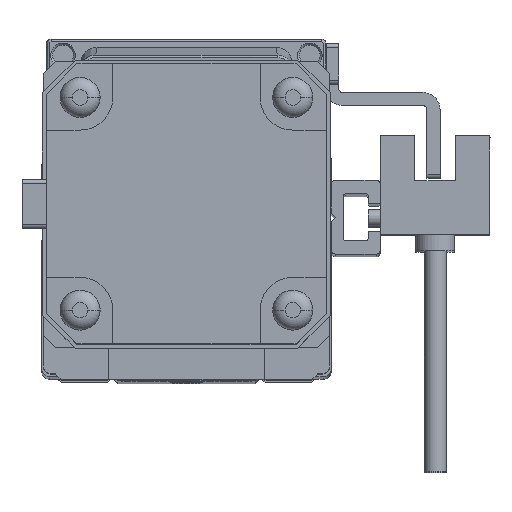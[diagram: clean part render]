
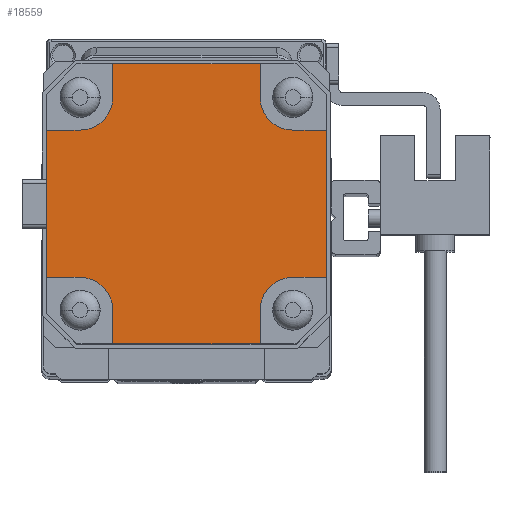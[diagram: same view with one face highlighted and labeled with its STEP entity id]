
A CAD part, top view. The second image highlights one B-rep face of the part: STEP entity #18559.
In plain terms, the highlighted planar face has unit normal (0, 0, 1) as drawn and (0, -1, 0) by its records, which use the part's own axes.
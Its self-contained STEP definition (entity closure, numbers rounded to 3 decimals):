
#118 = AXIS2_PLACEMENT_3D ( 'NONE', #2127, #2145, #2133 ) ;
#2126 = PLANE ( 'NONE',  #118 ) ;
#2127 = CARTESIAN_POINT ( 'NONE',  ( 0., -36., 0. ) ) ;
#2133 = DIRECTION ( 'NONE',  ( 0., 0., 1. ) ) ;
#2145 = DIRECTION ( 'NONE',  ( 0., 1., 0. ) ) ;
#3218 = FACE_OUTER_BOUND ( 'NONE', #27619, .T. ) ;
#12025 = AXIS2_PLACEMENT_3D ( 'NONE', #45167, #45169, #45135 ) ;
#12035 = AXIS2_PLACEMENT_3D ( 'NONE', #45077, #45086, #45080 ) ;
#12049 = AXIS2_PLACEMENT_3D ( 'NONE', #43835, #43806, #43769 ) ;
#12067 = AXIS2_PLACEMENT_3D ( 'NONE', #45102, #45129, #45100 ) ;
#18559 = ADVANCED_FACE ( 'NONE', ( #3218 ), #2126, .F. ) ;
#27619 = EDGE_LOOP ( 'NONE', ( #38317, #38320, #38321, #38296, #38314, #38329, #38282, #38287, #38318, #38288, #38290, #38284, #38338, #38293, #38331, #38300 ) ) ;
#32229 = VECTOR ( 'NONE', #45084, 1000. ) ;
#32243 = LINE ( 'NONE', #45085, #32337 ) ;
#32249 = VECTOR ( 'NONE', #45055, 1000. ) ;
#32255 = LINE ( 'NONE', #45030, #32307 ) ;
#32275 = CIRCLE ( 'NONE', #12067, 4. ) ;
#32283 = LINE ( 'NONE', #45079, #32229 ) ;
#32301 = LINE ( 'NONE', #45091, #32303 ) ;
#32303 = VECTOR ( 'NONE', #45103, 1000. ) ;
#32307 = VECTOR ( 'NONE', #45041, 1000. ) ;
#32313 = VECTOR ( 'NONE', #45075, 1000. ) ;
#32315 = LINE ( 'NONE', #45053, #32249 ) ;
#32337 = VECTOR ( 'NONE', #45060, 1000. ) ;
#32341 = LINE ( 'NONE', #45051, #32313 ) ;
#32347 = CIRCLE ( 'NONE', #12035, 4. ) ;
#32375 = VECTOR ( 'NONE', #45157, 1000. ) ;
#32379 = LINE ( 'NONE', #43761, #32403 ) ;
#32383 = LINE ( 'NONE', #45170, #32375 ) ;
#32391 = LINE ( 'NONE', #45161, #32469 ) ;
#32399 = VECTOR ( 'NONE', #45138, 1000. ) ;
#32403 = VECTOR ( 'NONE', #43706, 1000. ) ;
#32417 = LINE ( 'NONE', #43755, #32421 ) ;
#32421 = VECTOR ( 'NONE', #43702, 1000. ) ;
#32429 = LINE ( 'NONE', #43756, #32431 ) ;
#32431 = VECTOR ( 'NONE', #43715, 1000. ) ;
#32445 = CIRCLE ( 'NONE', #12025, 4. ) ;
#32459 = LINE ( 'NONE', #45142, #32399 ) ;
#32469 = VECTOR ( 'NONE', #45139, 1000. ) ;
#32611 = CIRCLE ( 'NONE', #12049, 4. ) ;
#38282 = ORIENTED_EDGE ( 'NONE', *, *, #43395, .T. ) ;
#38284 = ORIENTED_EDGE ( 'NONE', *, *, #43444, .T. ) ;
#38287 = ORIENTED_EDGE ( 'NONE', *, *, #43423, .F. ) ;
#38288 = ORIENTED_EDGE ( 'NONE', *, *, #43437, .F. ) ;
#38290 = ORIENTED_EDGE ( 'NONE', *, *, #43407, .T. ) ;
#38293 = ORIENTED_EDGE ( 'NONE', *, *, #43445, .F. ) ;
#38296 = ORIENTED_EDGE ( 'NONE', *, *, #43392, .F. ) ;
#38300 = ORIENTED_EDGE ( 'NONE', *, *, #43409, .T. ) ;
#38314 = ORIENTED_EDGE ( 'NONE', *, *, #43387, .T. ) ;
#38317 = ORIENTED_EDGE ( 'NONE', *, *, #43398, .T. ) ;
#38318 = ORIENTED_EDGE ( 'NONE', *, *, #43382, .T. ) ;
#38320 = ORIENTED_EDGE ( 'NONE', *, *, #43419, .F. ) ;
#38321 = ORIENTED_EDGE ( 'NONE', *, *, #43451, .T. ) ;
#38329 = ORIENTED_EDGE ( 'NONE', *, *, #43441, .F. ) ;
#38331 = ORIENTED_EDGE ( 'NONE', *, *, #43430, .T. ) ;
#38338 = ORIENTED_EDGE ( 'NONE', *, *, #43393, .T. ) ;
#43382 = EDGE_CURVE ( 'NONE', #46302, #46243, #32255, .T. ) ;
#43387 = EDGE_CURVE ( 'NONE', #46238, #46335, #32243, .T. ) ;
#43392 = EDGE_CURVE ( 'NONE', #46238, #46246, #32283, .T. ) ;
#43393 = EDGE_CURVE ( 'NONE', #46233, #46247, #32341, .T. ) ;
#43395 = EDGE_CURVE ( 'NONE', #46244, #46334, #32347, .T. ) ;
#43398 = EDGE_CURVE ( 'NONE', #46300, #46227, #32315, .T. ) ;
#43407 = EDGE_CURVE ( 'NONE', #46309, #46322, #32275, .T. ) ;
#43409 = EDGE_CURVE ( 'NONE', #46346, #46300, #32301, .T. ) ;
#43419 = EDGE_CURVE ( 'NONE', #46269, #46227, #32459, .T. ) ;
#43423 = EDGE_CURVE ( 'NONE', #46302, #46334, #32391, .T. ) ;
#43430 = EDGE_CURVE ( 'NONE', #46333, #46346, #32445, .T. ) ;
#43437 = EDGE_CURVE ( 'NONE', #46309, #46243, #32383, .T. ) ;
#43441 = EDGE_CURVE ( 'NONE', #46244, #46335, #32379, .T. ) ;
#43444 = EDGE_CURVE ( 'NONE', #46322, #46233, #32417, .T. ) ;
#43445 = EDGE_CURVE ( 'NONE', #46333, #46247, #32429, .T. ) ;
#43451 = EDGE_CURVE ( 'NONE', #46269, #46246, #32611, .T. ) ;
#43702 = DIRECTION ( 'NONE',  ( 0., 0., -1. ) ) ;
#43706 = DIRECTION ( 'NONE',  ( 0., 0., 1. ) ) ;
#43715 = DIRECTION ( 'NONE',  ( 0., 0., -1. ) ) ;
#43755 = CARTESIAN_POINT ( 'NONE',  ( -9., -36., -9. ) ) ;
#43756 = CARTESIAN_POINT ( 'NONE',  ( 9., -36., -9. ) ) ;
#43761 = CARTESIAN_POINT ( 'NONE',  ( -9., -36., 9. ) ) ;
#43769 = DIRECTION ( 'NONE',  ( 0., 0., 1. ) ) ;
#43806 = DIRECTION ( 'NONE',  ( 0., 1., 0. ) ) ;
#43835 = CARTESIAN_POINT ( 'NONE',  ( 13., -36., 13. ) ) ;
#45030 = CARTESIAN_POINT ( 'NONE',  ( -17.1, -36., -17.1 ) ) ;
#45041 = DIRECTION ( 'NONE',  ( 0., 0., -1. ) ) ;
#45051 = CARTESIAN_POINT ( 'NONE',  ( 17.1, -36., -17.1 ) ) ;
#45053 = CARTESIAN_POINT ( 'NONE',  ( 17.1, -36., 17.1 ) ) ;
#45055 = DIRECTION ( 'NONE',  ( 0., 0., 1. ) ) ;
#45060 = DIRECTION ( 'NONE',  ( -1., 0., 0. ) ) ;
#45075 = DIRECTION ( 'NONE',  ( 1., 0., 0. ) ) ;
#45077 = CARTESIAN_POINT ( 'NONE',  ( -13., -36., 13. ) ) ;
#45079 = CARTESIAN_POINT ( 'NONE',  ( 9., -36., 17.1 ) ) ;
#45080 = DIRECTION ( 'NONE',  ( 0., 0., 1. ) ) ;
#45084 = DIRECTION ( 'NONE',  ( 0., 0., -1. ) ) ;
#45085 = CARTESIAN_POINT ( 'NONE',  ( -17.1, -36., 17.1 ) ) ;
#45086 = DIRECTION ( 'NONE',  ( 0., 1., 0. ) ) ;
#45091 = CARTESIAN_POINT ( 'NONE',  ( 9., -36., -9. ) ) ;
#45100 = DIRECTION ( 'NONE',  ( 0., 0., 1. ) ) ;
#45102 = CARTESIAN_POINT ( 'NONE',  ( -13., -36., -13. ) ) ;
#45103 = DIRECTION ( 'NONE',  ( 1., 0., 0. ) ) ;
#45129 = DIRECTION ( 'NONE',  ( 0., 1., 0. ) ) ;
#45135 = DIRECTION ( 'NONE',  ( 0., 0., 1. ) ) ;
#45138 = DIRECTION ( 'NONE',  ( 1., 0., 0. ) ) ;
#45139 = DIRECTION ( 'NONE',  ( 1., 0., 0. ) ) ;
#45142 = CARTESIAN_POINT ( 'NONE',  ( 9., -36., 9. ) ) ;
#45157 = DIRECTION ( 'NONE',  ( -1., 0., 0. ) ) ;
#45161 = CARTESIAN_POINT ( 'NONE',  ( -17.1, -36., 9. ) ) ;
#45167 = CARTESIAN_POINT ( 'NONE',  ( 13., -36., -13. ) ) ;
#45169 = DIRECTION ( 'NONE',  ( 0., 1., 0. ) ) ;
#45170 = CARTESIAN_POINT ( 'NONE',  ( -9., -36., -9. ) ) ;
#46227 = VERTEX_POINT ( 'NONE', #53497 ) ;
#46233 = VERTEX_POINT ( 'NONE', #53509 ) ;
#46238 = VERTEX_POINT ( 'NONE', #53452 ) ;
#46243 = VERTEX_POINT ( 'NONE', #53462 ) ;
#46244 = VERTEX_POINT ( 'NONE', #53463 ) ;
#46246 = VERTEX_POINT ( 'NONE', #53474 ) ;
#46247 = VERTEX_POINT ( 'NONE', #53476 ) ;
#46269 = VERTEX_POINT ( 'NONE', #53574 ) ;
#46300 = VERTEX_POINT ( 'NONE', #53535 ) ;
#46302 = VERTEX_POINT ( 'NONE', #53564 ) ;
#46309 = VERTEX_POINT ( 'NONE', #53553 ) ;
#46322 = VERTEX_POINT ( 'NONE', #53531 ) ;
#46333 = VERTEX_POINT ( 'NONE', #53627 ) ;
#46334 = VERTEX_POINT ( 'NONE', #53621 ) ;
#46335 = VERTEX_POINT ( 'NONE', #53606 ) ;
#46346 = VERTEX_POINT ( 'NONE', #53587 ) ;
#53452 = CARTESIAN_POINT ( 'NONE',  ( 9., -36., 17.1 ) ) ;
#53462 = CARTESIAN_POINT ( 'NONE',  ( -17.1, -36., -9. ) ) ;
#53463 = CARTESIAN_POINT ( 'NONE',  ( -9., -36., 13. ) ) ;
#53474 = CARTESIAN_POINT ( 'NONE',  ( 9., -36., 13. ) ) ;
#53476 = CARTESIAN_POINT ( 'NONE',  ( 9., -36., -17.1 ) ) ;
#53497 = CARTESIAN_POINT ( 'NONE',  ( 17.1, -36., 9. ) ) ;
#53509 = CARTESIAN_POINT ( 'NONE',  ( -9., -36., -17.1 ) ) ;
#53531 = CARTESIAN_POINT ( 'NONE',  ( -9., -36., -13. ) ) ;
#53535 = CARTESIAN_POINT ( 'NONE',  ( 17.1, -36., -9. ) ) ;
#53553 = CARTESIAN_POINT ( 'NONE',  ( -13., -36., -9. ) ) ;
#53564 = CARTESIAN_POINT ( 'NONE',  ( -17.1, -36., 9. ) ) ;
#53574 = CARTESIAN_POINT ( 'NONE',  ( 13., -36., 9. ) ) ;
#53587 = CARTESIAN_POINT ( 'NONE',  ( 13., -36., -9. ) ) ;
#53606 = CARTESIAN_POINT ( 'NONE',  ( -9., -36., 17.1 ) ) ;
#53621 = CARTESIAN_POINT ( 'NONE',  ( -13., -36., 9. ) ) ;
#53627 = CARTESIAN_POINT ( 'NONE',  ( 9., -36., -13. ) ) ;
